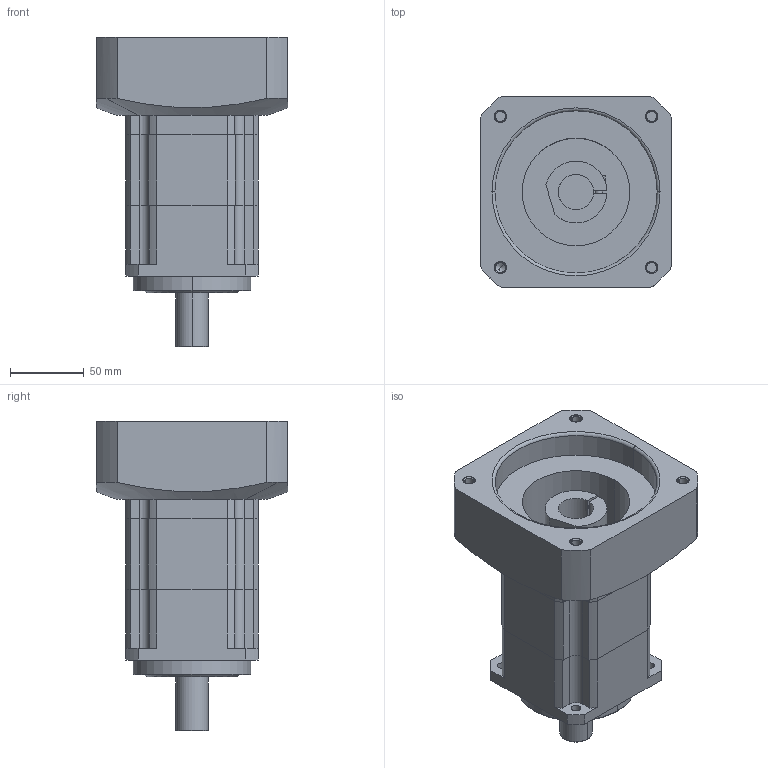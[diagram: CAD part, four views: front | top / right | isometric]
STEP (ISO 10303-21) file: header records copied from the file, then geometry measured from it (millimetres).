
FILE_DESCRIPTION((''),'2;1');
FILE_NAME('AB090A2-P0401301004_ASM','2016-03-10T',('d00435'),(''),'PRO/ENGINEER BY PARAMETRIC TECHNOLOGY CORPORATION, 2008410','PRO/ENGINEER BY PARAMETRIC TECHNOLOGY CORPORATION, 2008410','');
FILE_SCHEMA(('CONFIG_CONTROL_DESIGN'));
Length unit declared in the file: millimetre
Products named in the file (4): AB090A2; AN034A-1; P0401301004; AB090A2-P0401301004_ASM
Assembly tree (3 placements, depth 2):
  AB090A2-P0401301004_ASM
    AB090A2
    AN034A-1
    P0401301004
Bounding box: 130 x 130 x 210 mm (x, y, z)
Volume: 1323892.1 mm3; surface area: 148951.5 mm2
Topology: 3 solids, 8 shells, 205 faces, 523 edges, 338 vertices
Faces by surface type: cylinder 93, plane 86, cone 18, torus 8
Entity records: 6448 total; most frequent: DIRECTION 1189, CARTESIAN_POINT 1146, ORIENTED_EDGE 1016, EDGE_CURVE 519, AXIS2_PLACEMENT_3D 459, VERTEX_POINT 338, VECTOR 271, LINE 271
